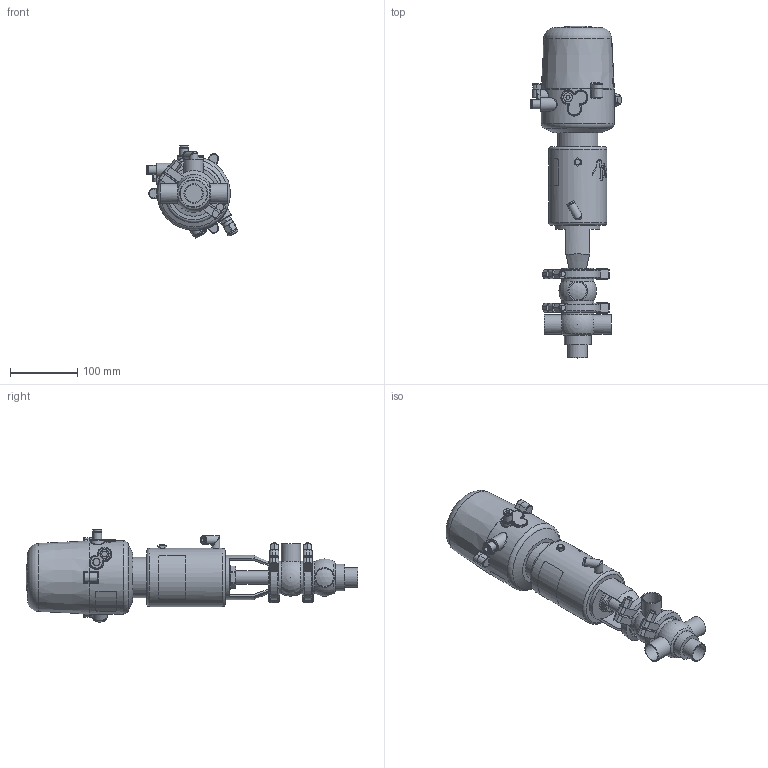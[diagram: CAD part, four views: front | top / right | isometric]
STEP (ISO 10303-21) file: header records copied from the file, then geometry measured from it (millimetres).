
FILE_DESCRIPTION (( 'STEP AP214' ), '1' );
FILE_NAME ('INNOVA K F W DIN 025 T1 AS NC & C-TOP S_10.240.16.0079.STEP', '2024-08-06T09:09:43', ( '' ), ( '' ), 'SwSTEP 2.0', 'SolidWorks 2023', '' );
FILE_SCHEMA (( 'AUTOMOTIVE_DESIGN' ));
Length unit declared in the file: millimetre
Products named in the file (8): 10.240.15.0010_DN 025; INNOVA K F W DIN 025 T1 AS NC & C-TOP S_10.240.16.0079; 10.240.15.0001_DN 025; 10.240.15.0003_DIN 025; 10.426.15.0001_C-TOP S - 1 EV; 10.240.15.0014_T1 AS P0; 10.240.15.0006_DIN 025; 10.240.15.0017_Estàndard
Assembly tree (8 placements, depth 2):
  INNOVA K F W DIN 025 T1 AS NC & C-TOP S_10.240.16.0079
    10.240.15.0006_DIN 025
    10.240.15.0003_DIN 025
    10.240.15.0010_DN 025
    10.240.15.0014_T1 AS P0
    10.240.15.0017_Estàndard
    10.426.15.0001_C-TOP S - 1 EV
    10.240.15.0001_DN 025  x2
Bounding box: 136.88 x 495 x 137.63 mm (x, y, z)
Volume: 2510638.3 mm3; surface area: 233330.9 mm2
Topology: 8 solids, 8 shells, 1182 faces, 2868 edges, 1908 vertices
Faces by surface type: plane 411, cylinder 359, cone 205, bspline 160, torus 37, sphere 10
Full cylindrical faces by diameter (mm): 0.371 x17, 0.512 x16, 0.658 x16, 0.795 x16, 0.94 x15, 1.098 x15, 1.241 x13, 1.382 x13, 1.523 x11, 1.669 x10, 2.201 x1, 4 x2, 5.5 x2, 6 x2, 6.15 x1, 8 x6, 8.5 x1, 10 x1, 10.5 x1, 11 x2, 12.5 x3, 13 x2, 13.5 x2, 16 x1, 17 x3, 20 x3, 20.5 x1, 22 x2, 26 x4, 29 x4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
Entity records: 57289 total; most frequent: CARTESIAN_POINT 26834, ORIENTED_EDGE 4566, DIRECTION 3705, EDGE_CURVE 2283, VERTEX_POINT 1622, EDGE_LOOP 1579, AXIS2_PLACEMENT_3D 1520, FACE_OUTER_BOUND 1342
